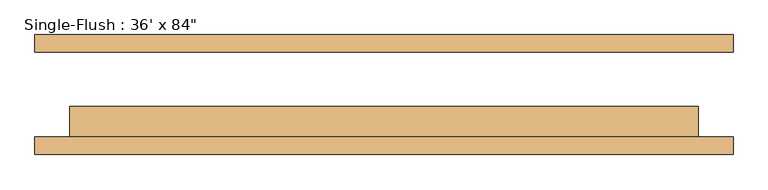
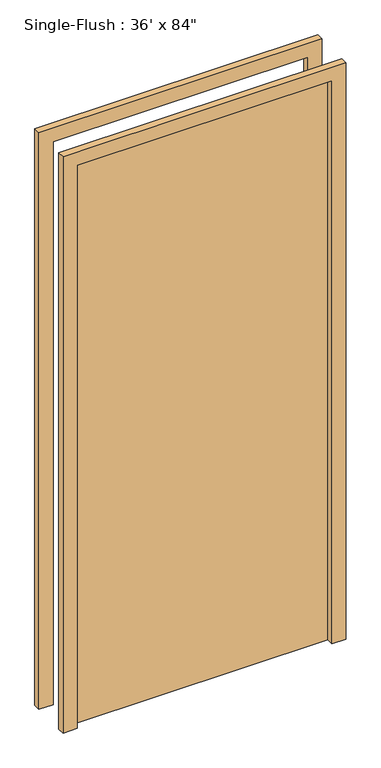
"""IFC4 building model written with IfcOpenShell, lengths in millimetres: door geometry."""

from ifc_helpers import new_model, si_unit, frame, origin, origin_with_axes, place, context, project, spatial, polyline, outline, extrude, source, transform, mapped, element, save


def door_70d702ca(model_context):
    return source(origin(), model_context, "Body", "SweptSolid", [
        extrude(outline(polyline([(2184.4, -508.0), (0.0, -508.0), (0.0, -457.2), (2133.6, -457.2), (2133.6, 457.2), (0.0, 457.2), (0.0, 508.0), (2184.4, 508.0), (2184.4, -508.0)])), frame((0.0, -87.3125, 0.0), z_axis=(0.0, 1.0, 0.0), x_axis=(0.0, 0.0, 1.0)), (0.0, 0.0, 1.0), 25.4),
        extrude(outline(polyline([(2184.4, 508.0), (2184.4, -508.0), (0.0, -508.0), (0.0, -457.2), (2133.6, -457.2), (2133.6, 457.2), (0.0, 457.2), (0.0, 508.0), (2184.4, 508.0)])), frame((0.0, 61.9125, 0.0), z_axis=(0.0, 1.0, 0.0), x_axis=(0.0, 0.0, 1.0)), (0.0, 0.0, 1.0), 25.4),
        extrude(outline(polyline([(457.2, -17.4625), (457.2, -61.9125), (-457.2, -61.9125), (-457.2, -17.4625), (457.2, -17.4625)])), origin_with_axes(), (0.0, 0.0, 1.0), 2133.6),
    ])


if __name__ == "__main__":
    model = new_model("IFC4")
    model_context = context("Model", 3, world=origin())
    ifc_project = project(units=[si_unit("LENGTHUNIT", "METRE", prefix="MILLI")], contexts=[model_context])
    site = spatial("IfcSite", under=ifc_project)
    building = spatial("IfcBuilding", under=site)
    placement = place(None, origin())
    door_shape = door_70d702ca(model_context)
    element("IfcDoor", 1, ObjectType="Single-Flush : 36' x 84\"", at=placement, inside=building, context=model_context, shape_type="MappedRepresentation", body=[
        mapped(door_shape, transform((0.0, 0.0, 0.0), x_axis=(1.0, 0.0, 0.0), y_axis=(0.0, 1.0, 0.0), z_axis=(0.0, 0.0, 1.0))),
    ])
    save(model, "model.ifc")
